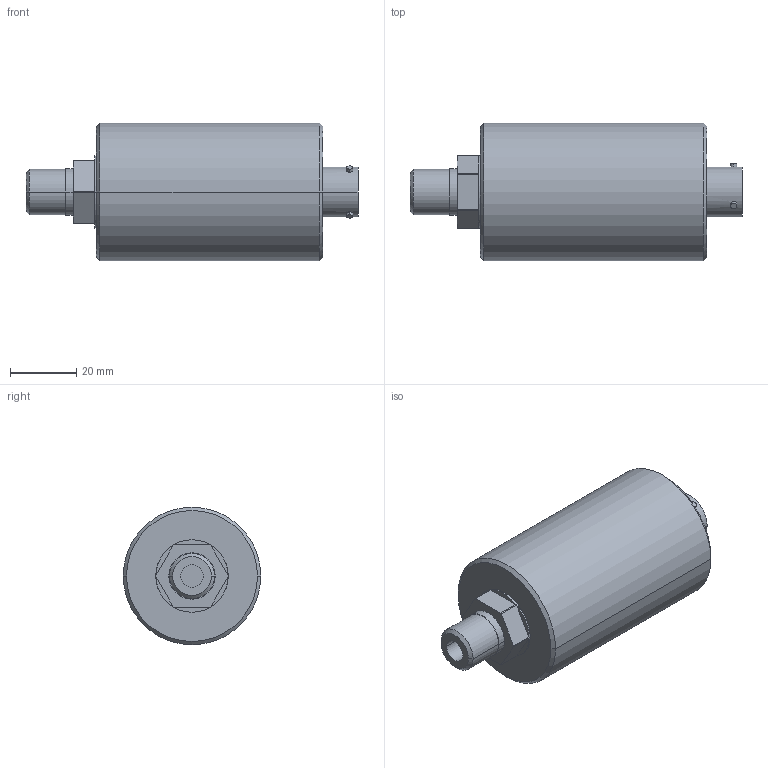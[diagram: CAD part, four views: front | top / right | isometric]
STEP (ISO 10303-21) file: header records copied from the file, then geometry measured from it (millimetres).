
FILE_DESCRIPTION(('STEP AP214'),'1');
FILE_NAME('burster_8263-100_4i5x9hjugumax1790308pgkth.stp','2017-04-19T19:40:23',('TraceParts'),('TraceParts S.A.'),'Spatial InterOp 3D',' ',' ');
FILE_SCHEMA(('automotive_design'));
Length unit declared in the file: millimetre
Products named in the file (1): burster_8263-100_4i5x9hjugumax1790308pgkth
Bounding box: 99.9 x 41.4 x 41.4 mm (x, y, z)
Volume: 95475.4 mm3; surface area: 14101.2 mm2
Topology: 1 solids, 1 shells, 67 faces, 147 edges, 96 vertices
Faces by surface type: cylinder 32, plane 29, cone 6
Entity records: 2549 total; most frequent: CARTESIAN_POINT 447, DIRECTION 351, ORIENTED_EDGE 294, EDGE_CURVE 147, AXIS2_PLACEMENT_3D 144, VERTEX_POINT 96, EDGE_LOOP 81, CIRCLE 76
